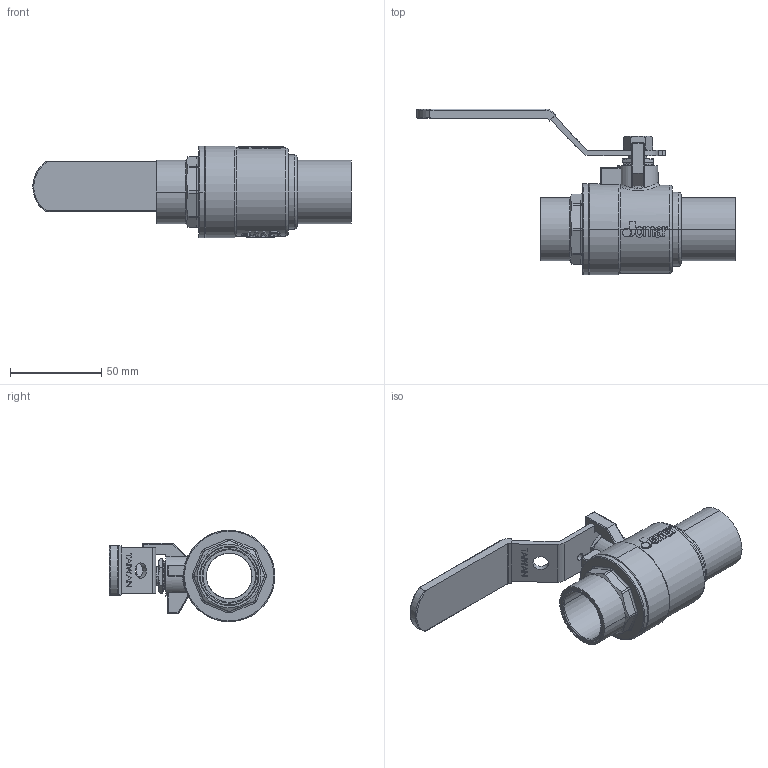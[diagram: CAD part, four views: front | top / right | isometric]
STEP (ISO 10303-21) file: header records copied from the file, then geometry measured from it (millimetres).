
FILE_DESCRIPTION (( 'STEP AP203' ), '1' );
FILE_NAME ('ABL735-µL±¾Âê-1''''JOMAR²y»ÖCxC²Õ¦X.STEP', '2026-04-13T03:48:30', ( '' ), ( '' ), 'SwSTEP 2.0', 'SolidWorks 2018', '' );
FILE_SCHEMA (( 'CONFIG_CONTROL_DESIGN' ));
Length unit declared in the file: millimetre
Products named in the file (13): BBL735-1''''JOMAR瞴恢砰-CxC-Τ筣础肪-礚LF; TBL265(無鑽孔); DN20-CBL734-HANDLE & SLEEVE 組合(黃色S膠套); EBL205A; EBL205B; CBL215-黃色膠套-S200CSS; NBL265; RBL264; BBL735A-1''''JOMAR瞴恢-CxC碪籠-Τ筣础肪; GBL205 (組裝); CBL235-20230914改; ABL735-µL±¾Âê-1''''JOMAR²y»ÖCxC²Õ¦X; EBL159
Assembly tree (13 placements, depth 3):
  ABL735-µL±¾Âê-1''''JOMAR²y»ÖCxC²Õ¦X
    BBL735-1''''JOMAR瞴恢砰-CxC-Τ筣础肪-礚LF
    RBL264
    EBL205A
    EBL205B
    GBL205 (組裝)
    BBL735A-1''''JOMAR瞴恢-CxC碪籠-Τ筣础肪
    NBL265
    DN20-CBL734-HANDLE & SLEEVE 組合(黃色S膠套)
      CBL235-20230914改
      CBL215-黃色膠套-S200CSS
    EBL159  x2
    TBL265(無鑽孔)
Bounding box: 174.2 x 90.71 x 50 mm (x, y, z)
Volume: 104825.1 mm3; surface area: 68984.7 mm2
Topology: 12 solids, 12 shells, 1395 faces, 3679 edges, 2408 vertices
Faces by surface type: plane 571, bspline 471, cylinder 238, cone 66, torus 35, sphere 14
Entity records: 75096 total; most frequent: CARTESIAN_POINT 43277, ORIENTED_EDGE 7282, DIRECTION 4635, EDGE_CURVE 3641, VERTEX_POINT 2388, VECTOR 1895, LINE 1895, EDGE_LOOP 1515
